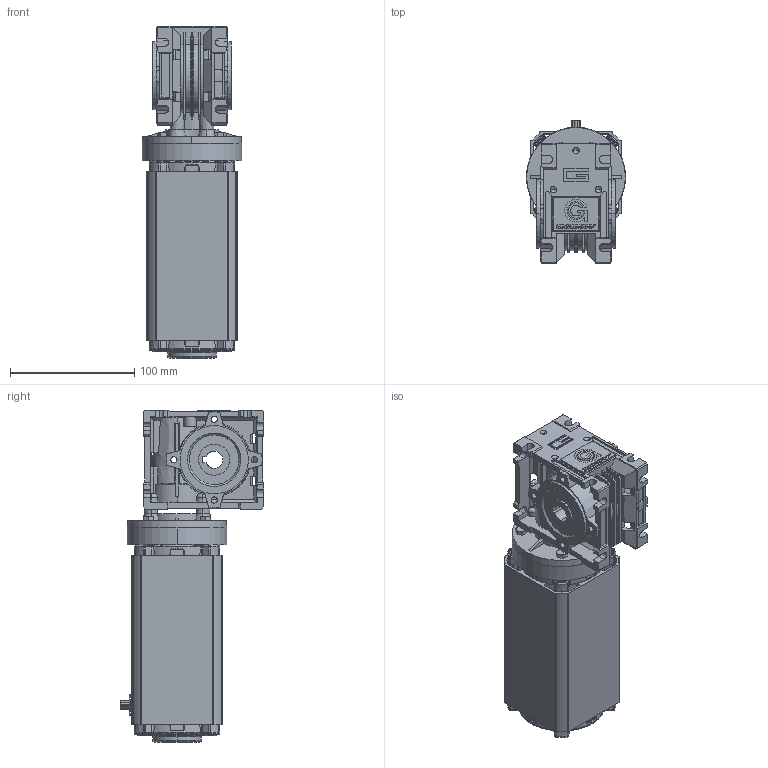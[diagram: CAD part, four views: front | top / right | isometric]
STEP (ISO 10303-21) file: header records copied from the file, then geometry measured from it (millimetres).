
FILE_DESCRIPTION (( 'STEP AP214' ), '1' );
FILE_NAME ('BL6560-RA3000T.STEP', '2013-01-29T15:30:08', ( '' ), ( '' ), 'SwSTEP 2.0', 'SolidWorks 2013', '' );
FILE_SCHEMA (( 'AUTOMOTIVE_DESIGN' ));
Length unit declared in the file: inch
Products named in the file (1): BL6560-RA3000T
Bounding box: 80.01 x 115.87 x 267.51 mm (x, y, z)
Surface area: 175610.7 mm2 (no closed solid volume)
Topology: 0 solids, 58 shells, 1528 faces, 5494 edges, 3887 vertices
Faces by surface type: plane 708, cylinder 313, cone 290, torus 146, bspline 65, sphere 6
Entity records: 87261 total; most frequent: CARTESIAN_POINT 22289, DIRECTION 9067, ORIENTED_EDGE 8966, EDGE_CURVE 5486, VERTEX_POINT 3887, AXIS2_PLACEMENT_3D 3169, LINE 2729, VECTOR 2729
